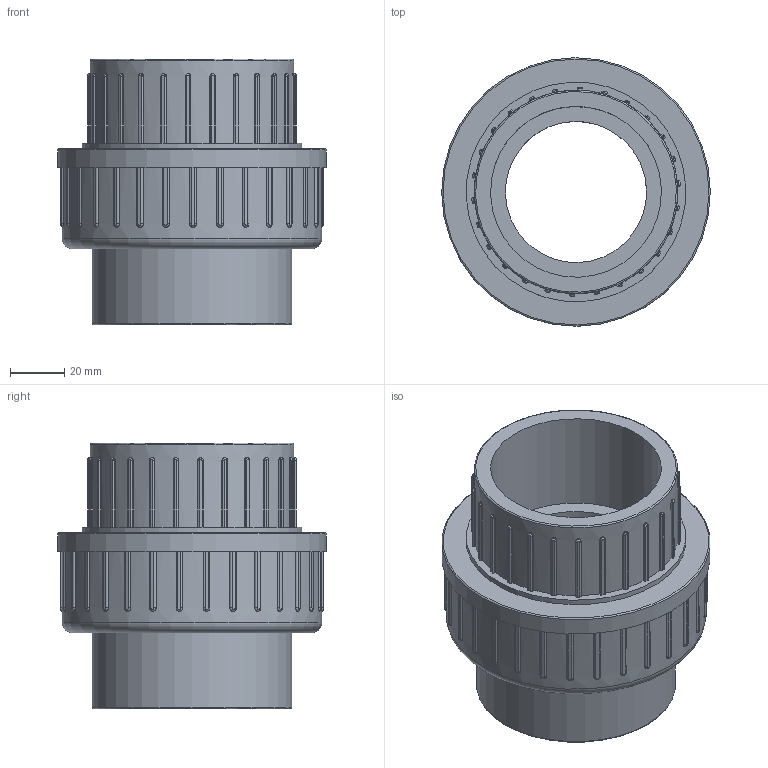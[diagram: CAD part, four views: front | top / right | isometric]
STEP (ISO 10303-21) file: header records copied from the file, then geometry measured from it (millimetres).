
FILE_DESCRIPTION(/* description */ (''),/* implementation_level */ '2;1');
FILE_NAME(/* name */ 'C:\Users\POLYPIPE\Desktop\DATASET INVENTOR\LIBRERIA EFFAST\3D_RACCORDI\RDR\3D_RDRBOD\3D_RDRBOD0630.stp',/* time_stamp */ '2018-01-22T10:25:11+01:00',/* author */ ('POLYPIPE'),/* organization */ (''),/* preprocessor_version */ 'ST-DEVELOPER v16.1',/* originating_system */ 'Autodesk Inventor 2016',/* authorisation */ '');
FILE_SCHEMA (('CONFIG_CONTROL_DESIGN'));
Length unit declared in the file: centimetre
Products named in the file (1): 3D_RDRBOD
Bounding box: 99 x 99 x 98 mm (x, y, z)
Volume: 252054 mm3; surface area: 62942 mm2
Topology: 1 solids, 2 shells, 420 faces, 1165 edges, 757 vertices
Faces by surface type: plane 180, cylinder 180, bspline 56, torus 4
Full cylindrical faces by diameter (mm): 52 x1, 53 x1, 63 x2, 73.5 x1, 74.3 x1, 75 x1, 79 x1, 79.3 x1, 81 x1, 95.7 x1, 99 x1
Entity records: 15169 total; most frequent: CARTESIAN_POINT 4113, ORIENTED_EDGE 2292, DIRECTION 2182, EDGE_CURVE 1146, AXIS2_PLACEMENT_3D 783, VERTEX_POINT 754, LINE 616, VECTOR 616
